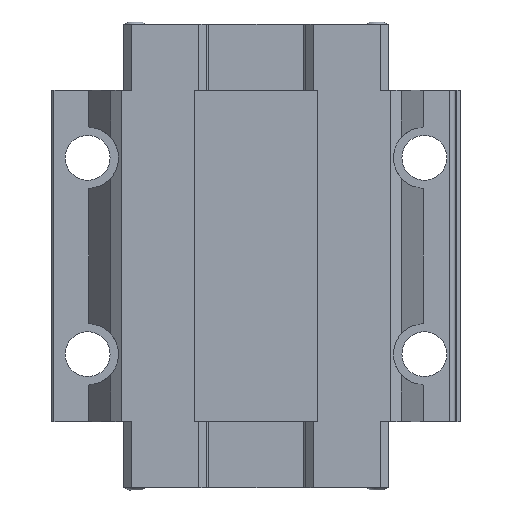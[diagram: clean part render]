
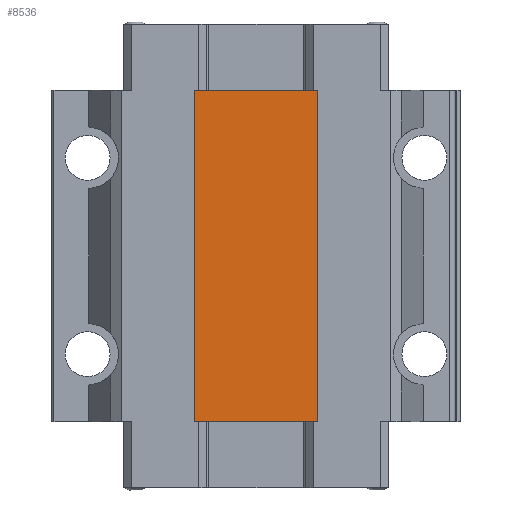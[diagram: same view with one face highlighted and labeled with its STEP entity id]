
A CAD part, front view. The second image highlights one B-rep face of the part: STEP entity #8536.
In plain terms, the highlighted planar face has unit normal (0, -1, 0).
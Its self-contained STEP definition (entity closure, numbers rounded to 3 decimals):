
#512 = CARTESIAN_POINT ( 'NONE',  ( -11., 3.3, -59. ) ) ;
#611 = DIRECTION ( 'NONE',  ( -1., 0., 0. ) ) ;
#831 = VERTEX_POINT ( 'NONE', #1830 ) ;
#845 = VERTEX_POINT ( 'NONE', #5244 ) ;
#868 = LINE ( 'NONE', #6017, #5845 ) ;
#1580 = CARTESIAN_POINT ( 'NONE',  ( 14., 3.3, 0. ) ) ;
#1830 = CARTESIAN_POINT ( 'NONE',  ( 11., 3.3, 0. ) ) ;
#1852 = DIRECTION ( 'NONE',  ( 0., 0., 1. ) ) ;
#1900 = DIRECTION ( 'NONE',  ( 0., 0., -1. ) ) ;
#2271 = DIRECTION ( 'NONE',  ( 0., -1., 0. ) ) ;
#2519 = EDGE_CURVE ( 'NONE', #831, #2893, #868, .T. ) ;
#2570 = CARTESIAN_POINT ( 'NONE',  ( 11., 3.3, 0. ) ) ;
#2799 = ORIENTED_EDGE ( 'NONE', *, *, #2519, .T. ) ;
#2822 = VECTOR ( 'NONE', #1900, 1000. ) ;
#2893 = VERTEX_POINT ( 'NONE', #4003 ) ;
#3050 = LINE ( 'NONE', #512, #6435 ) ;
#3926 = EDGE_LOOP ( 'NONE', ( #7990, #2799, #4171, #7477 ) ) ;
#4003 = CARTESIAN_POINT ( 'NONE',  ( -11., 3.3, 0. ) ) ;
#4087 = EDGE_CURVE ( 'NONE', #831, #6301, #4594, .T. ) ;
#4141 = CARTESIAN_POINT ( 'NONE',  ( 11., 3.3, -59. ) ) ;
#4171 = ORIENTED_EDGE ( 'NONE', *, *, #7147, .F. ) ;
#4276 = CARTESIAN_POINT ( 'NONE',  ( 14., 3.3, -59. ) ) ;
#4594 = LINE ( 'NONE', #2570, #2822 ) ;
#4925 = EDGE_CURVE ( 'NONE', #6301, #845, #6592, .T. ) ;
#4952 = DIRECTION ( 'NONE',  ( -1., 0., 0. ) ) ;
#5244 = CARTESIAN_POINT ( 'NONE',  ( -11., 3.3, -59. ) ) ;
#5651 = PLANE ( 'NONE',  #7496 ) ;
#5845 = VECTOR ( 'NONE', #611, 1000. ) ;
#6017 = CARTESIAN_POINT ( 'NONE',  ( 14., 3.3, 0. ) ) ;
#6301 = VERTEX_POINT ( 'NONE', #4141 ) ;
#6435 = VECTOR ( 'NONE', #1852, 1000. ) ;
#6519 = FACE_OUTER_BOUND ( 'NONE', #3926, .T. ) ;
#6592 = LINE ( 'NONE', #4276, #8405 ) ;
#6995 = DIRECTION ( 'NONE',  ( 0., 0., -1. ) ) ;
#7147 = EDGE_CURVE ( 'NONE', #845, #2893, #3050, .T. ) ;
#7477 = ORIENTED_EDGE ( 'NONE', *, *, #4925, .F. ) ;
#7496 = AXIS2_PLACEMENT_3D ( 'NONE', #1580, #2271, #6995 ) ;
#7990 = ORIENTED_EDGE ( 'NONE', *, *, #4087, .F. ) ;
#8405 = VECTOR ( 'NONE', #4952, 1000. ) ;
#8536 = ADVANCED_FACE ( 'NONE', ( #6519 ), #5651, .T. ) ;
